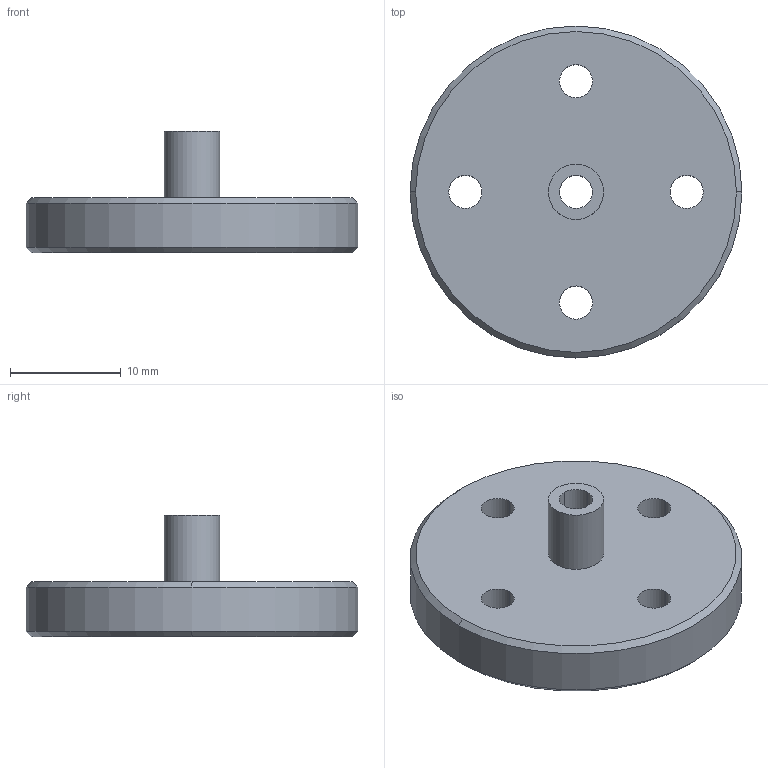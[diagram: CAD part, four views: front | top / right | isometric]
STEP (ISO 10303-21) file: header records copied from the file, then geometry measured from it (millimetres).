
FILE_DESCRIPTION(('CATIA V5 STEP Exchange'),'2;1');
FILE_NAME('D:\姚明阳\1、工装图纸\AGZ007 升降阀压钢柱工装\GZ07.14_V2.stp','2024-03-06T11:26:05+00:00',('none'),('none'),'CATIA Version 5 Release 21 GA (IN-10)','CATIA V5 STEP AP214','none');
FILE_SCHEMA(('AUTOMOTIVE_DESIGN { 1 0 10303 214 1 1 1 1 }'));
Length unit declared in the file: millimetre
Products named in the file (1): GZ07.14_V1
Bounding box: 30 x 30 x 11 mm (x, y, z)
Volume: 3285.5 mm3; surface area: 2188 mm2
Topology: 1 solids, 1 shells, 24 faces, 90 edges, 70 vertices
Faces by surface type: cylinder 16, plane 4, cone 4
Entity records: 976 total; most frequent: ORIENTED_EDGE 180, CARTESIAN_POINT 177, DIRECTION 122, EDGE_CURVE 90, AXIS2_PLACEMENT_3D 87, CIRCLE 70, VERTEX_POINT 70, EDGE_LOOP 36
